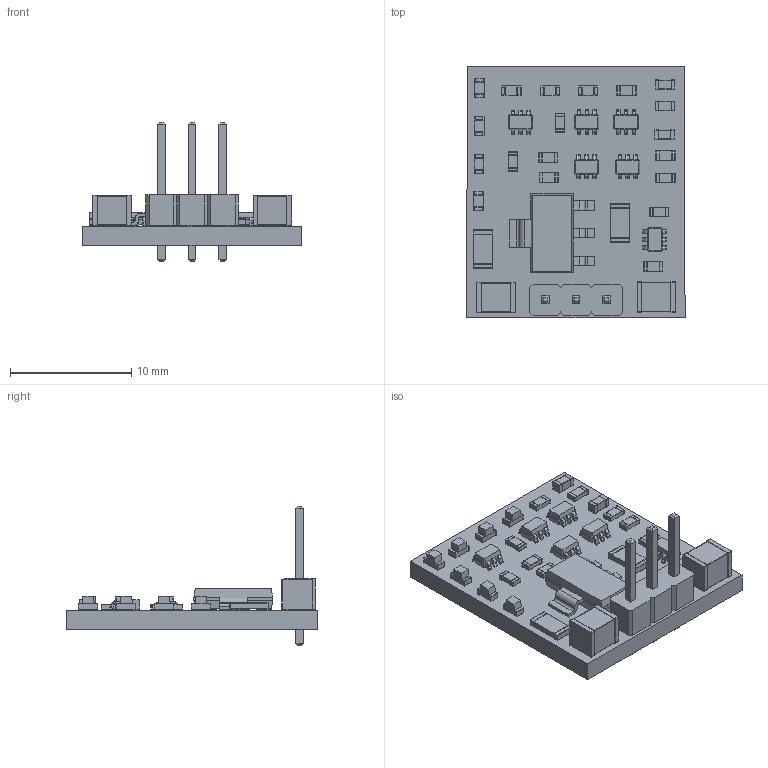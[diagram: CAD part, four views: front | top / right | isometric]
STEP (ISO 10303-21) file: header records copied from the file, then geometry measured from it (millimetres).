
FILE_DESCRIPTION(('KiCad electronic assembly'),'2;1');
FILE_NAME('Stab.step','2021-02-20T16:17:56',('An Author'),('A Company'), 'Open CASCADE STEP processor 6.9','KiCad to STEP converter','Unknown' );
FILE_SCHEMA(('AUTOMOTIVE_DESIGN { 1 0 10303 214 1 1 1 1 }'));
Length unit declared in the file: millimetre
Products named in the file (18): Open CASCADE STEP translator 6.9 1; PinHeader_1x03_P2.54mm_Vertical; SOLID; C_0603_1608Metric; R_1206_3216Metric; SOT-363_SC-70-6; R_0603_1608Metric; SOT-223; LED_0603_1608Metric; C_1210_3225Metric; COMPOUND
Assembly tree (40 placements, depth 3):
  Open CASCADE STEP translator 6.9 1
    PinHeader_1x03_P2.54mm_Vertical
      SOLID
    C_0603_1608Metric  x2
      SOLID
    R_1206_3216Metric  x2
      SOLID
    SOT-363_SC-70-6  x6
      SOLID
    R_0603_1608Metric  x10
      SOLID
    SOT-223
      SOLID
    LED_0603_1608Metric  x7
      SOLID
    C_1210_3225Metric  x2
      SOLID
    COMPOUND
Bounding box: 18 x 20.76 x 11.54 mm (x, y, z)
Volume: 762.8 mm3; surface area: 1450.1 mm2
Topology: 32 solids, 32 shells, 1645 faces, 4164 edges, 2604 vertices
Faces by surface type: plane 1086, cylinder 363, bspline 196
Full cylindrical faces by diameter (mm): 1 x3
Entity records: 30848 total; most frequent: CARTESIAN_POINT 5282, DIRECTION 4130, LINE 2804, VECTOR 2804, ORIENTED_EDGE 2204, PCURVE 2204, DEFINITIONAL_REPRESENTATION 2204, EDGE_CURVE 1102
